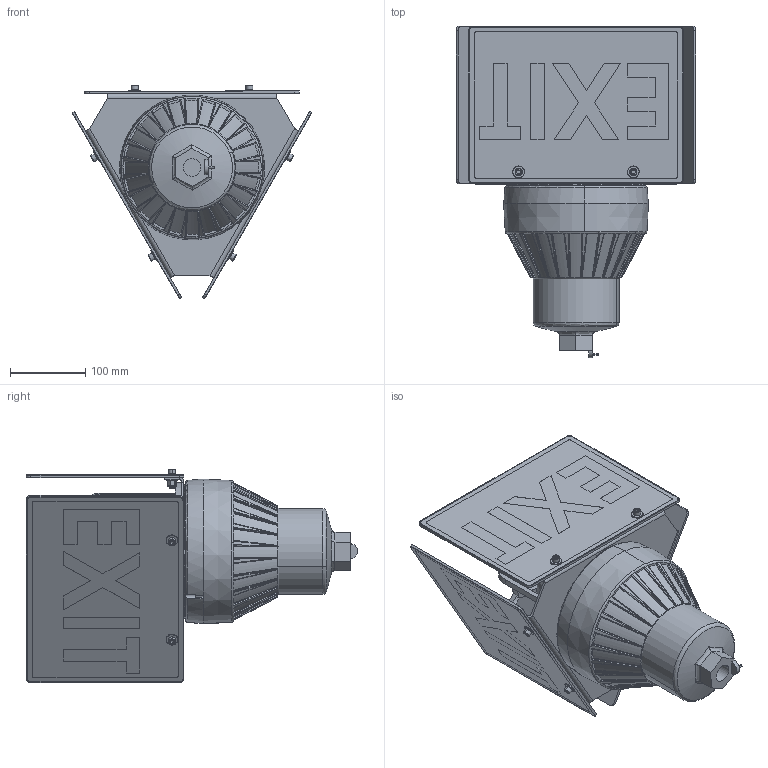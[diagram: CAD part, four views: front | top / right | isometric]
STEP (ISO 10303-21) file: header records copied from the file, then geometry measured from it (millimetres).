
FILE_DESCRIPTION (( 'STEP AP203' ), '1' );
FILE_NAME ('EPL-EMG-EXT-26W-PND.STEP', '2026-06-22T18:56:03', ( '' ), ( '' ), 'SwSTEP 2.0', 'SolidWorks 2020', '' );
FILE_SCHEMA (( 'CONFIG_CONTROL_DESIGN' ));
Length unit declared in the file: inch
Products named in the file (10): 92562A588_Mil. Spec. Alloy Steel Socket Head Screw_92562A588; 95615A102_Medium-Strength Steel Nylon-Insert Locknut_95615A102; EPL-EMG-EXT-26W-PND; 90107A029_316 Stainless Steel Washer (5)_90107A029; Small Wire Cage; FAB00000696-ARROW_EXIT; Body; FAB00000729A; Lens A; Pendant
Assembly tree (32 placements, depth 2):
  EPL-EMG-EXT-26W-PND
    Body
    FAB00000729A
    Lens A
    Small Wire Cage
    FAB00000696-ARROW_EXIT  x3
    90107A029_316 Stainless Steel Washer (5)_90107A029  x12
    92562A588_Mil. Spec. Alloy Steel Socket Head Screw_92562A588  x6
    95615A102_Medium-Strength Steel Nylon-Insert Locknut_95615A102  x6
    Pendant
Bounding box: 318.69 x 440.44 x 283.72 mm (x, y, z)
Volume: 5027758.2 mm3; surface area: 1180352.6 mm2
Topology: 43 solids, 43 shells, 2829 faces, 7687 edges, 4976 vertices
Faces by surface type: cylinder 1321, plane 1205, cone 168, torus 74, bspline 61
Entity records: 65639 total; most frequent: CARTESIAN_POINT 19957, ORIENTED_EDGE 9698, DIRECTION 8788, EDGE_CURVE 4849, VERTEX_POINT 3148, VECTOR 2936, LINE 2936, AXIS2_PLACEMENT_3D 2926
